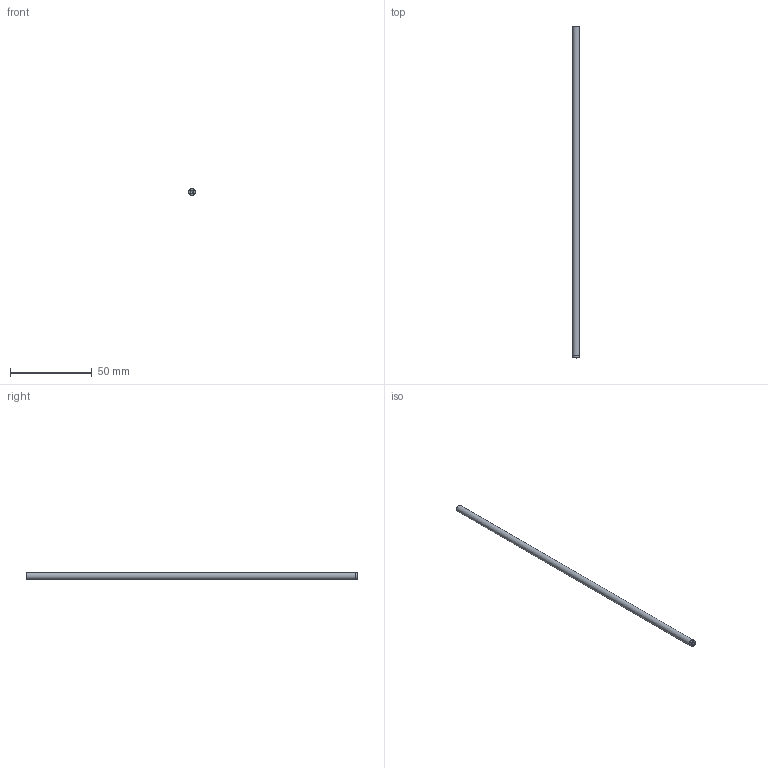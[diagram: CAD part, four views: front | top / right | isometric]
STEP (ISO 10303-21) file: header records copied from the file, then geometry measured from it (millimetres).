
FILE_DESCRIPTION(/* description */ (''),/* implementation_level */ '2;1');
FILE_NAME(/* name */ 'Y:\2_OpticalHard\08_Cage Systems\C16ｼﾘｰｽﾞ\C16-RO-4(UU)\C16-RO-4-203.2UU.stp',/* time_stamp */ '2018-07-24T16:29:43+09:00',/* author */ ('e.nonaka'),/* organization */ (''),/* preprocessor_version */ 'ST-DEVELOPER v17',/* originating_system */ 'Autodesk Inventor 2018',/* authorisation */ '');
FILE_SCHEMA (('AUTOMOTIVE_DESIGN { 1 0 10303 214 3 1 1 }'));
Length unit declared in the file: millimetre
Products named in the file (1): C16RO4**UU-M03-18001  A
Bounding box: 4 x 203.2 x 4 mm (x, y, z)
Volume: 2492.9 mm3; surface area: 2682.9 mm2
Topology: 1 solids, 1 shells, 10 faces, 28 edges, 20 vertices
Faces by surface type: cone 4, cylinder 4, plane 2
Full cylindrical faces by diameter (mm): 2.3 x2, 4 x2
Entity records: 371 total; most frequent: DIRECTION 66, CARTESIAN_POINT 57, ORIENTED_EDGE 52, AXIS2_PLACEMENT_3D 29, EDGE_CURVE 26, VERTEX_POINT 20, CIRCLE 18, EDGE_LOOP 12
